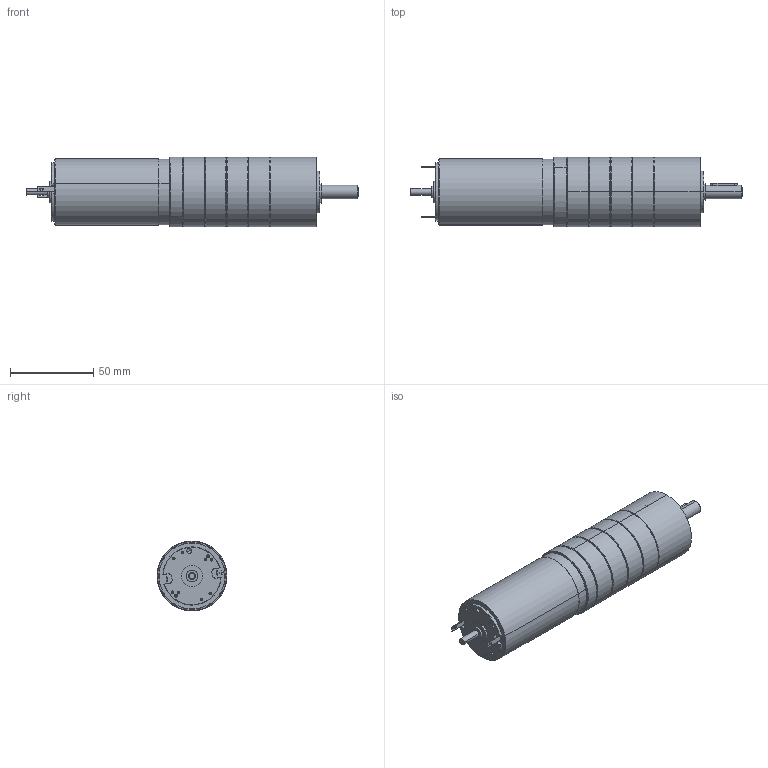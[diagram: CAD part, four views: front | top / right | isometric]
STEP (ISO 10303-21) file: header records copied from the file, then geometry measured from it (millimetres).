
FILE_DESCRIPTION (( 'STEP AP214' ), '1' );
FILE_NAME ('RE40_+_PM42-4ETAGEs.STEP', '2014-08-27T14:42:37', ( '' ), ( '' ), 'SwSTEP 2.0', 'SolidWorks 2013', '' );
FILE_SCHEMA (( 'AUTOMOTIVE_DESIGN' ));
Length unit declared in the file: millimetre
Products named in the file (18): D471_8X0_8_13; 8001316_ABTRIEB_LK4_KPL_12; 8001305_LAGERBOLZEN_13; VBZ_K7841_ABTRIEB_AF0_13; DIN998_PS_8X14X1_13; D625-608-2RS_12; 8007595_LAGERFLANSCH_12; RE40G_Part; RE40_+_PM42-4ETAGEs; D912_M3X10_1_1; MOTORFLANSCH_1240243_1_1; bmz_1249466_2; SCHRAUBE_1241978_22; 8012556_MOTORRITZEL_Z17_2; 8001288_ANLAUFSCHEIBE_1ST_11; P8209_8007589_ZAHNKRANZ_Z46_12; 8007606_DICHTRING_12; 3X3X16_D6885A_13
Assembly tree (33 placements, depth 4):
  RE40_+_PM42-4ETAGEs
    RE40G_Part
    bmz_1249466_2
      8007595_LAGERFLANSCH_12
      D625-608-2RS_12  x2
      DIN998_PS_8X14X1_13  x2
      8001316_ABTRIEB_LK4_KPL_12
        VBZ_K7841_ABTRIEB_AF0_13
        8001305_LAGERBOLZEN_13  x3
      D471_8X0_8_13
      3X3X16_D6885A_13
      8007606_DICHTRING_12  x2
      P8209_8007589_ZAHNKRANZ_Z46_12
      8001288_ANLAUFSCHEIBE_1ST_11
      8012556_MOTORRITZEL_Z17_2
      SCHRAUBE_1241978_22  x4
    MOTORFLANSCH_1240243_1_1
    D912_M3X10_1_1  x3
    P8209_8007589_ZAHNKRANZ_Z46_12  x3
    8007606_DICHTRING_12  x3
Bounding box: 199.35 x 42 x 42 mm (x, y, z)
Volume: 134484 mm3; surface area: 78079.1 mm2
Topology: 25 solids, 57 shells, 1651 faces, 4415 edges, 2874 vertices
Faces by surface type: cylinder 812, plane 623, cone 158, bspline 58
Entity records: 28558 total; most frequent: CARTESIAN_POINT 6238, DIRECTION 4546, ORIENTED_EDGE 4016, EDGE_CURVE 2038, AXIS2_PLACEMENT_3D 1748, VERTEX_POINT 1336, VECTOR 1050, LINE 1050
